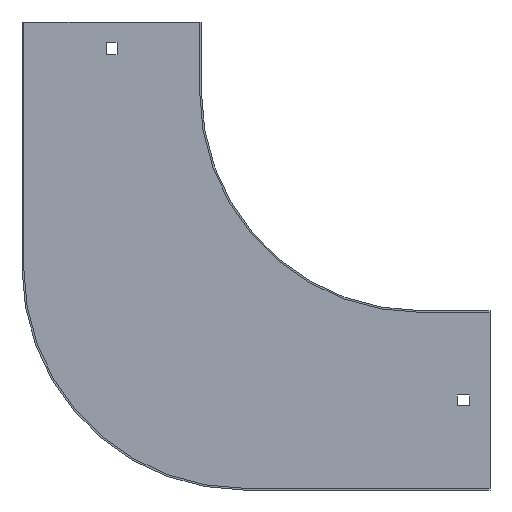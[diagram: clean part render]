
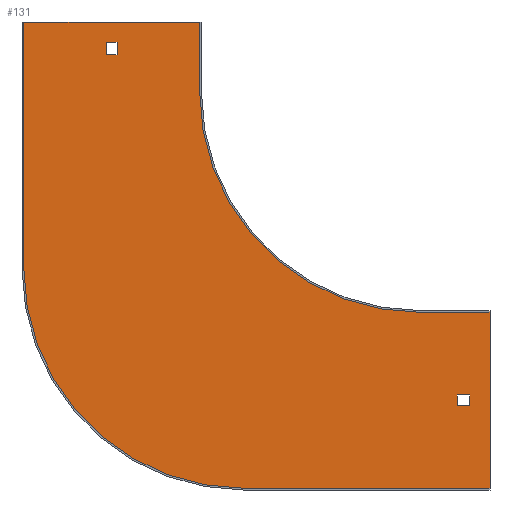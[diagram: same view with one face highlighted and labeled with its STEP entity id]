
A CAD part, front view. The second image highlights one B-rep face of the part: STEP entity #131.
In plain terms, the highlighted planar face has unit normal (0, -1, 0).
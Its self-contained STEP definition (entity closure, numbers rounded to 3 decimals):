
#4 = CARTESIAN_POINT ( 'NONE',  ( 0., -1., 21.5 ) ) ;
#8 = ORIENTED_EDGE ( 'NONE', *, *, #181, .F. ) ;
#19 = EDGE_CURVE ( 'NONE', #584, #287, #480, .T. ) ;
#26 = VERTEX_POINT ( 'NONE', #763 ) ;
#29 = CARTESIAN_POINT ( 'NONE',  ( 0., -1., 0. ) ) ;
#32 = CARTESIAN_POINT ( 'NONE',  ( 0., -1., 0. ) ) ;
#33 = CARTESIAN_POINT ( 'NONE',  ( 40., -1., -124. ) ) ;
#37 = DIRECTION ( 'NONE',  ( 0., 0., 1. ) ) ;
#40 = VERTEX_POINT ( 'NONE', #292 ) ;
#46 = DIRECTION ( 'NONE',  ( -1., 0., 0. ) ) ;
#54 = CARTESIAN_POINT ( 'NONE',  ( -178., -1., 0. ) ) ;
#58 = VERTEX_POINT ( 'NONE', #506 ) ;
#60 = DIRECTION ( 'NONE',  ( 0., 0., -1. ) ) ;
#62 = VERTEX_POINT ( 'NONE', #362 ) ;
#63 = LINE ( 'NONE', #326, #827 ) ;
#64 = AXIS2_PLACEMENT_3D ( 'NONE', #395, #201, #60 ) ;
#73 = DIRECTION ( 'NONE',  ( 0., 0., 1. ) ) ;
#77 = CARTESIAN_POINT ( 'NONE',  ( -178., -1., 28.5 ) ) ;
#83 = EDGE_CURVE ( 'NONE', #822, #62, #226, .T. ) ;
#91 = PLANE ( 'NONE',  #319 ) ;
#92 = VERTEX_POINT ( 'NONE', #692 ) ;
#97 = VERTEX_POINT ( 'NONE', #493 ) ;
#107 = FACE_OUTER_BOUND ( 'NONE', #649, .T. ) ;
#108 = ORIENTED_EDGE ( 'NONE', *, *, #399, .F. ) ;
#109 = CARTESIAN_POINT ( 'NONE',  ( 40., -1., -225. ) ) ;
#116 = EDGE_LOOP ( 'NONE', ( #730, #108, #467, #522 ) ) ;
#118 = CIRCLE ( 'NONE', #355, 125. ) ;
#126 = CARTESIAN_POINT ( 'NONE',  ( -226., -1., 40. ) ) ;
#131 = ADVANCED_FACE ( 'NONE', ( #836, #107, #773 ), #91, .T. ) ;
#140 = EDGE_CURVE ( 'NONE', #412, #826, #561, .T. ) ;
#141 = LINE ( 'NONE', #406, #387 ) ;
#146 = DIRECTION ( 'NONE',  ( 0., 0., -1. ) ) ;
#151 = VERTEX_POINT ( 'NONE', #189 ) ;
#157 = LINE ( 'NONE', #546, #596 ) ;
#174 = DIRECTION ( 'NONE',  ( 0., -1., 0. ) ) ;
#178 = EDGE_CURVE ( 'NONE', #40, #684, #528, .T. ) ;
#181 = EDGE_CURVE ( 'NONE', #711, #92, #63, .T. ) ;
#189 = CARTESIAN_POINT ( 'NONE',  ( -172., -1., 28.5 ) ) ;
#199 = ORIENTED_EDGE ( 'NONE', *, *, #316, .F. ) ;
#201 = DIRECTION ( 'NONE',  ( 0., 1., 0. ) ) ;
#203 = EDGE_CURVE ( 'NONE', #58, #584, #727, .T. ) ;
#221 = VERTEX_POINT ( 'NONE', #392 ) ;
#226 = LINE ( 'NONE', #379, #595 ) ;
#229 = DIRECTION ( 'NONE',  ( 0., 0., -1. ) ) ;
#232 = VECTOR ( 'NONE', #146, 1000. ) ;
#233 = ORIENTED_EDGE ( 'NONE', *, *, #566, .T. ) ;
#236 = VECTOR ( 'NONE', #492, 1000. ) ;
#238 = DIRECTION ( 'NONE',  ( 1., 0., 0. ) ) ;
#241 = CARTESIAN_POINT ( 'NONE',  ( 0., -1., 28.5 ) ) ;
#245 = EDGE_CURVE ( 'NONE', #92, #822, #798, .T. ) ;
#250 = CARTESIAN_POINT ( 'NONE',  ( 0., -1., -178. ) ) ;
#257 = ORIENTED_EDGE ( 'NONE', *, *, #178, .F. ) ;
#260 = EDGE_CURVE ( 'NONE', #826, #711, #302, .T. ) ;
#265 = VECTOR ( 'NONE', #229, 1000. ) ;
#287 = VERTEX_POINT ( 'NONE', #758 ) ;
#292 = CARTESIAN_POINT ( 'NONE',  ( 0., -1., -125. ) ) ;
#297 = DIRECTION ( 'NONE',  ( 0., 0., -1. ) ) ;
#300 = CARTESIAN_POINT ( 'NONE',  ( -225., -1., -100. ) ) ;
#302 = CIRCLE ( 'NONE', #64, 125. ) ;
#314 = ORIENTED_EDGE ( 'NONE', *, *, #726, .F. ) ;
#316 = EDGE_CURVE ( 'NONE', #62, #40, #118, .T. ) ;
#319 = AXIS2_PLACEMENT_3D ( 'NONE', #29, #174, #297 ) ;
#324 = DIRECTION ( 'NONE',  ( 1., 0., 0. ) ) ;
#326 = CARTESIAN_POINT ( 'NONE',  ( -225., -1., -100. ) ) ;
#332 = VECTOR ( 'NONE', #847, 1000. ) ;
#334 = DIRECTION ( 'NONE',  ( 0., 0., 1. ) ) ;
#338 = DIRECTION ( 'NONE',  ( 0., -1., 0. ) ) ;
#355 = AXIS2_PLACEMENT_3D ( 'NONE', #32, #338, #738 ) ;
#357 = VECTOR ( 'NONE', #37, 1000. ) ;
#362 = CARTESIAN_POINT ( 'NONE',  ( -125., -1., 0. ) ) ;
#371 = LINE ( 'NONE', #54, #357 ) ;
#379 = CARTESIAN_POINT ( 'NONE',  ( -125., -1., 40. ) ) ;
#387 = VECTOR ( 'NONE', #73, 1000. ) ;
#392 = CARTESIAN_POINT ( 'NONE',  ( -178., -1., 21.5 ) ) ;
#395 = CARTESIAN_POINT ( 'NONE',  ( -100., -1., -100. ) ) ;
#397 = CARTESIAN_POINT ( 'NONE',  ( 21.5, -1., -172. ) ) ;
#399 = EDGE_CURVE ( 'NONE', #26, #58, #141, .T. ) ;
#406 = CARTESIAN_POINT ( 'NONE',  ( 28.5, -1., 0. ) ) ;
#412 = VERTEX_POINT ( 'NONE', #109 ) ;
#416 = LINE ( 'NONE', #33, #265 ) ;
#428 = ORIENTED_EDGE ( 'NONE', *, *, #140, .F. ) ;
#463 = CARTESIAN_POINT ( 'NONE',  ( 0., -1., -172. ) ) ;
#467 = ORIENTED_EDGE ( 'NONE', *, *, #531, .F. ) ;
#471 = VECTOR ( 'NONE', #46, 1000. ) ;
#480 = LINE ( 'NONE', #743, #232 ) ;
#492 = DIRECTION ( 'NONE',  ( -1., 0., 0. ) ) ;
#493 = CARTESIAN_POINT ( 'NONE',  ( -172., -1., 21.5 ) ) ;
#506 = CARTESIAN_POINT ( 'NONE',  ( 28.5, -1., -172. ) ) ;
#522 = ORIENTED_EDGE ( 'NONE', *, *, #19, .F. ) ;
#526 = ORIENTED_EDGE ( 'NONE', *, *, #245, .F. ) ;
#528 = LINE ( 'NONE', #660, #707 ) ;
#531 = EDGE_CURVE ( 'NONE', #287, #26, #843, .T. ) ;
#546 = CARTESIAN_POINT ( 'NONE',  ( -172., -1., 0. ) ) ;
#561 = LINE ( 'NONE', #825, #471 ) ;
#565 = CARTESIAN_POINT ( 'NONE',  ( -100., -1., -225. ) ) ;
#566 = EDGE_CURVE ( 'NONE', #221, #746, #371, .T. ) ;
#584 = VERTEX_POINT ( 'NONE', #397 ) ;
#587 = DIRECTION ( 'NONE',  ( 1., 0., 0. ) ) ;
#595 = VECTOR ( 'NONE', #831, 1000. ) ;
#596 = VECTOR ( 'NONE', #754, 1000. ) ;
#616 = EDGE_CURVE ( 'NONE', #97, #221, #731, .T. ) ;
#621 = ORIENTED_EDGE ( 'NONE', *, *, #639, .T. ) ;
#639 = EDGE_CURVE ( 'NONE', #151, #97, #157, .T. ) ;
#645 = EDGE_LOOP ( 'NONE', ( #741, #621, #663, #233 ) ) ;
#649 = EDGE_LOOP ( 'NONE', ( #526, #8, #757, #428, #314, #257, #199, #752 ) ) ;
#660 = CARTESIAN_POINT ( 'NONE',  ( 0., -1., -125. ) ) ;
#663 = ORIENTED_EDGE ( 'NONE', *, *, #616, .T. ) ;
#684 = VERTEX_POINT ( 'NONE', #751 ) ;
#691 = VECTOR ( 'NONE', #324, 1000. ) ;
#692 = CARTESIAN_POINT ( 'NONE',  ( -225., -1., 40. ) ) ;
#707 = VECTOR ( 'NONE', #587, 1000. ) ;
#711 = VERTEX_POINT ( 'NONE', #300 ) ;
#718 = DIRECTION ( 'NONE',  ( 1., 0., 0. ) ) ;
#726 = EDGE_CURVE ( 'NONE', #684, #412, #416, .T. ) ;
#727 = LINE ( 'NONE', #463, #332 ) ;
#730 = ORIENTED_EDGE ( 'NONE', *, *, #203, .F. ) ;
#731 = LINE ( 'NONE', #4, #236 ) ;
#738 = DIRECTION ( 'NONE',  ( 0., 0., -1. ) ) ;
#741 = ORIENTED_EDGE ( 'NONE', *, *, #844, .T. ) ;
#743 = CARTESIAN_POINT ( 'NONE',  ( 21.5, -1., 0. ) ) ;
#746 = VERTEX_POINT ( 'NONE', #77 ) ;
#751 = CARTESIAN_POINT ( 'NONE',  ( 40., -1., -125. ) ) ;
#752 = ORIENTED_EDGE ( 'NONE', *, *, #83, .F. ) ;
#754 = DIRECTION ( 'NONE',  ( 0., 0., -1. ) ) ;
#757 = ORIENTED_EDGE ( 'NONE', *, *, #260, .F. ) ;
#758 = CARTESIAN_POINT ( 'NONE',  ( 21.5, -1., -178. ) ) ;
#763 = CARTESIAN_POINT ( 'NONE',  ( 28.5, -1., -178. ) ) ;
#767 = CARTESIAN_POINT ( 'NONE',  ( -125., -1., 40. ) ) ;
#773 = FACE_BOUND ( 'NONE', #645, .T. ) ;
#791 = VECTOR ( 'NONE', #238, 1000. ) ;
#798 = LINE ( 'NONE', #126, #810 ) ;
#810 = VECTOR ( 'NONE', #718, 1000. ) ;
#822 = VERTEX_POINT ( 'NONE', #767 ) ;
#825 = CARTESIAN_POINT ( 'NONE',  ( 40., -1., -225. ) ) ;
#826 = VERTEX_POINT ( 'NONE', #565 ) ;
#827 = VECTOR ( 'NONE', #334, 1000. ) ;
#831 = DIRECTION ( 'NONE',  ( 0., 0., -1. ) ) ;
#835 = LINE ( 'NONE', #241, #791 ) ;
#836 = FACE_BOUND ( 'NONE', #116, .T. ) ;
#843 = LINE ( 'NONE', #250, #691 ) ;
#844 = EDGE_CURVE ( 'NONE', #746, #151, #835, .T. ) ;
#847 = DIRECTION ( 'NONE',  ( -1., 0., 0. ) ) ;
